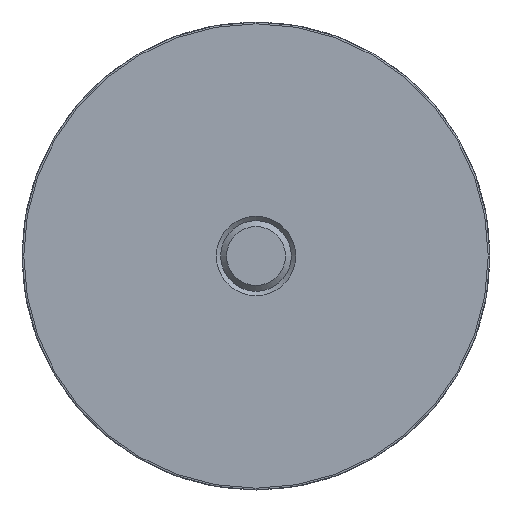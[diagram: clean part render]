
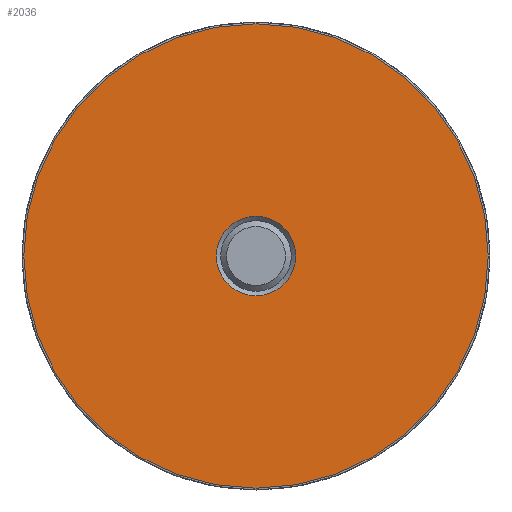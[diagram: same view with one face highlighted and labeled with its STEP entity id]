
A CAD part, left-side view. The second image highlights one B-rep face of the part: STEP entity #2036.
In plain terms, the highlighted planar face has unit normal (-1, 0, 0).
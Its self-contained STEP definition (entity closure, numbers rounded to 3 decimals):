
#1087=CARTESIAN_POINT('',(-525.136,-488.109,-78.9));
#1088=VERTEX_POINT('',#1087);
#1115=CARTESIAN_POINT('',(-525.136,-488.109,78.9));
#1116=VERTEX_POINT('',#1115);
#1117=CARTESIAN_POINT('',(-525.136,-488.109,0.));
#1118=DIRECTION('',(-1.0,0.0,0.));
#1119=DIRECTION('',(0.,0.0,-1.0));
#1120=AXIS2_PLACEMENT_3D('',#1117,#1118,#1119);
#1121=CIRCLE('',#1120,78.9);
#1122=EDGE_CURVE('',#1116,#1088,#1121,.T.);
#1124=CARTESIAN_POINT('',(-525.136,-488.109,0.));
#1125=DIRECTION('',(-1.0,0.0,0.));
#1126=DIRECTION('',(0.,0.0,-1.0));
#1127=AXIS2_PLACEMENT_3D('',#1124,#1125,#1126);
#1128=CIRCLE('',#1127,78.9);
#1129=EDGE_CURVE('',#1088,#1116,#1128,.T.);
#2007=CARTESIAN_POINT('',(-525.136,-409.208,-78.901));
#2008=DIRECTION('',(-1.0,0.0,0.0));
#2009=DIRECTION('',(0.0,-1.0,0.0));
#2010=AXIS2_PLACEMENT_3D('',#2007,#2008,#2009);
#2011=PLANE('',#2010);
#2012=ORIENTED_EDGE('',*,*,#1129,.T.);
#2013=ORIENTED_EDGE('',*,*,#1122,.T.);
#2014=EDGE_LOOP('',(#2012,#2013));
#2015=FACE_OUTER_BOUND('',#2014,.T.);
#2016=CARTESIAN_POINT('',(-525.136,-474.609,0.));
#2017=VERTEX_POINT('',#2016);
#2018=CARTESIAN_POINT('',(-525.136,-501.609,0.));
#2019=VERTEX_POINT('',#2018);
#2020=CARTESIAN_POINT('',(-525.136,-488.109,0.));
#2021=DIRECTION('',(-1.0,0.0,0.));
#2022=DIRECTION('',(0.0,-1.0,0.0));
#2023=AXIS2_PLACEMENT_3D('',#2020,#2021,#2022);
#2024=CIRCLE('',#2023,13.5);
#2025=EDGE_CURVE('',#2017,#2019,#2024,.T.);
#2026=ORIENTED_EDGE('',*,*,#2025,.F.);
#2027=CARTESIAN_POINT('',(-525.136,-488.109,0.));
#2028=DIRECTION('',(-1.0,0.0,0.));
#2029=DIRECTION('',(0.0,-1.0,0.0));
#2030=AXIS2_PLACEMENT_3D('',#2027,#2028,#2029);
#2031=CIRCLE('',#2030,13.5);
#2032=EDGE_CURVE('',#2019,#2017,#2031,.T.);
#2033=ORIENTED_EDGE('',*,*,#2032,.F.);
#2034=EDGE_LOOP('',(#2026,#2033));
#2035=FACE_BOUND('',#2034,.T.);
#2036=ADVANCED_FACE('',(#2015,#2035),#2011,.T.);
